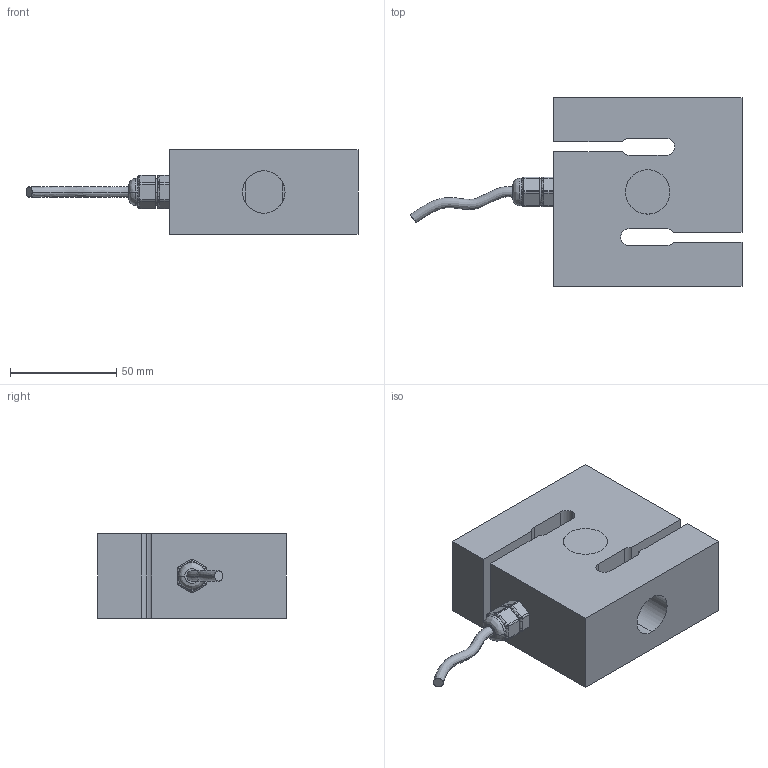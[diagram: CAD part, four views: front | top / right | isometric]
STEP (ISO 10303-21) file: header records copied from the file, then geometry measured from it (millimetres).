
FILE_DESCRIPTION (( 'STEP AP203' ), '1' );
FILE_NAME ('HI STLB-6.6KLB.STEP', '2014-10-14T17:07:10', ( '' ), ( '' ), 'SwSTEP 2.0', 'SolidWorks 2013', '' );
FILE_SCHEMA (( 'CONFIG_CONTROL_DESIGN' ));
Length unit declared in the file: millimetre
Products named in the file (4): HI STLB-6.6KLB; Load Element; Element Core; Cable and Adapter
Assembly tree (3 placements, depth 2):
  HI STLB-6.6KLB
    Load Element
    Element Core
    Cable and Adapter
Bounding box: 156.23 x 88.7 x 39.8 mm (x, y, z)
Volume: 277693.2 mm3; surface area: 45950.4 mm2
Topology: 3 solids, 3 shells, 133 faces, 327 edges, 192 vertices
Faces by surface type: cylinder 57, plane 48, bspline 16, sphere 12
Entity records: 5131 total; most frequent: CARTESIAN_POINT 1626, DIRECTION 685, ORIENTED_EDGE 638, EDGE_CURVE 319, AXIS2_PLACEMENT_3D 267, VERTEX_POINT 192, VECTOR 151, LINE 151
